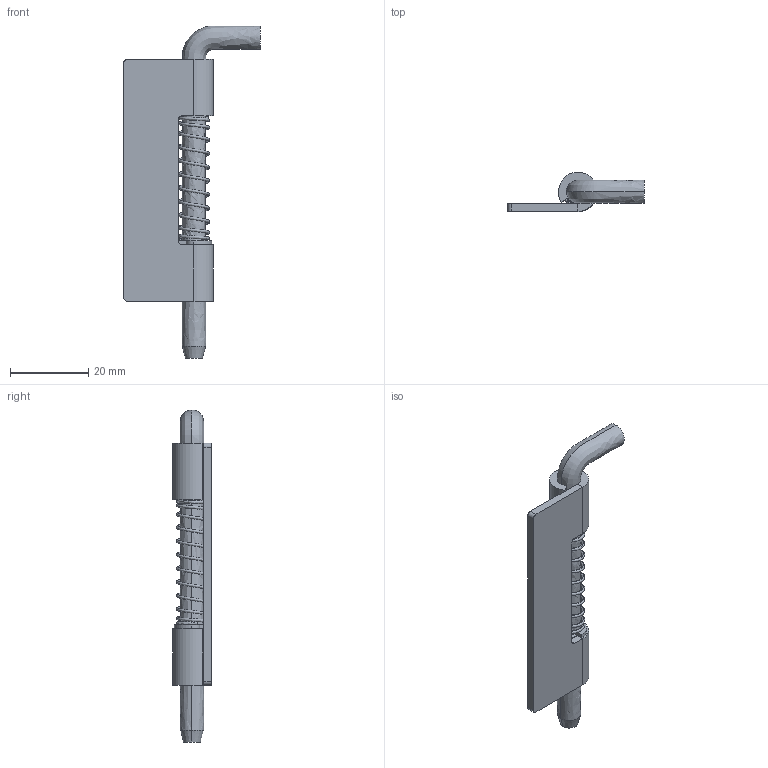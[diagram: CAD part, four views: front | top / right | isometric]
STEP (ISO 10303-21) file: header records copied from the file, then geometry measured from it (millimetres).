
FILE_DESCRIPTION (( 'STEP AP214' ), '1' );
FILE_NAME ('SK2-037-1.STEP', '2020-04-15T06:07:39', ( 'admin' ), ( 'Microsoft' ), 'SwSTEP 2.0', 'SolidWorks 2018', '' );
FILE_SCHEMA (( 'AUTOMOTIVE_DESIGN' ));
Length unit declared in the file: millimetre
Products named in the file (5): 2-037-1-F4; 2-037-1-F3; 2-037-1-F2; 2-037-1-F1; SK2-037-1
Assembly tree (4 placements, depth 2):
  SK2-037-1
    2-037-1-F1
    2-037-1-F2
    2-037-1-F3
    2-037-1-F4
Bounding box: 35 x 9.98 x 85.01 mm (x, y, z)
Volume: 6008.9 mm3; surface area: 6262.2 mm2
Topology: 4 solids, 4 shells, 44 faces, 92 edges, 58 vertices
Faces by surface type: plane 24, cylinder 12, bspline 6, cone 2
Entity records: 6516 total; most frequent: CARTESIAN_POINT 5391, DIRECTION 206, ORIENTED_EDGE 184, EDGE_CURVE 92, AXIS2_PLACEMENT_3D 79, VERTEX_POINT 58, LINE 48, VECTOR 48
